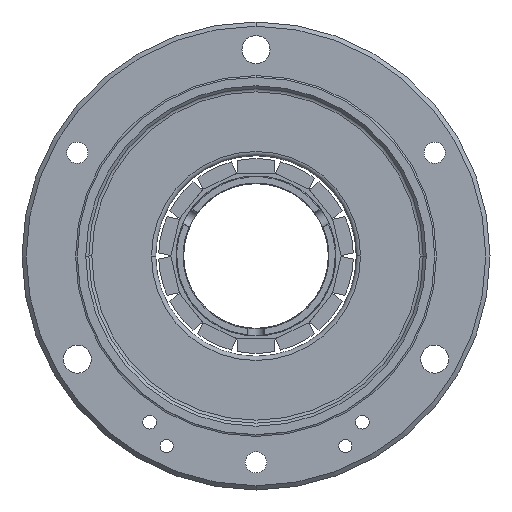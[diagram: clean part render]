
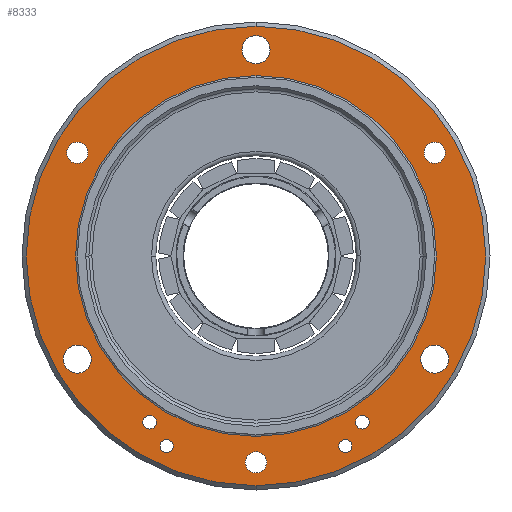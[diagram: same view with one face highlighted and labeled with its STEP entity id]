
A CAD part, left-side view. The second image highlights one B-rep face of the part: STEP entity #8333.
In plain terms, the highlighted planar face has unit normal (-1, 0, 0) as drawn and (0, 1, 0) by its records, which use the part's own axes.
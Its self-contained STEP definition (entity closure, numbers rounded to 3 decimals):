
#1492=CARTESIAN_POINT('',(-24.25,4.,0.));
#1493=DIRECTION('',(0.,-1.,0.));
#1494=DIRECTION('',(-1.,0.,0.));
#1495=AXIS2_PLACEMENT_3D('',#1492,#1493,#1494);
#1500=CARTESIAN_POINT('',(-24.25,4.,0.));
#1501=DIRECTION('',(0.,-1.,0.));
#1502=DIRECTION('',(1.,0.,0.));
#1503=AXIS2_PLACEMENT_3D('',#1500,#1501,#1502);
#1508=CARTESIAN_POINT('',(12.125,4.,21.001));
#1509=DIRECTION('',(0.,-1.,0.));
#1510=DIRECTION('',(0.5,0.,0.866));
#1511=AXIS2_PLACEMENT_3D('',#1508,#1509,#1510);
#1516=CARTESIAN_POINT('',(12.125,4.,21.001));
#1517=DIRECTION('',(0.,-1.,0.));
#1518=DIRECTION('',(-0.5,0.,-0.866));
#1519=AXIS2_PLACEMENT_3D('',#1516,#1517,#1518);
#1524=CARTESIAN_POINT('',(12.125,4.,-21.001));
#1525=DIRECTION('',(0.,-1.,0.));
#1526=DIRECTION('',(0.5,0.,-0.866));
#1527=AXIS2_PLACEMENT_3D('',#1524,#1525,#1526);
#1532=CARTESIAN_POINT('',(12.125,4.,-21.001));
#1533=DIRECTION('',(0.,-1.,0.));
#1534=DIRECTION('',(-0.5,0.,0.866));
#1535=AXIS2_PLACEMENT_3D('',#1532,#1533,#1534);
#1540=CARTESIAN_POINT('',(-12.125,4.,21.001));
#1541=DIRECTION('',(0.,1.,0.));
#1542=DIRECTION('',(-1.,0.,0.));
#1543=AXIS2_PLACEMENT_3D('',#1540,#1541,#1542);
#1548=CARTESIAN_POINT('',(-12.125,4.,21.001));
#1549=DIRECTION('',(0.,1.,0.));
#1550=DIRECTION('',(1.,0.,0.));
#1551=AXIS2_PLACEMENT_3D('',#1548,#1549,#1550);
#1556=CARTESIAN_POINT('',(24.25,4.,0.));
#1557=DIRECTION('',(0.,1.,0.));
#1558=DIRECTION('',(0.5,0.,0.866));
#1559=AXIS2_PLACEMENT_3D('',#1556,#1557,#1558);
#1564=CARTESIAN_POINT('',(24.25,4.,0.));
#1565=DIRECTION('',(0.,1.,0.));
#1566=DIRECTION('',(-0.5,0.,-0.866));
#1567=AXIS2_PLACEMENT_3D('',#1564,#1565,#1566);
#1572=CARTESIAN_POINT('',(-12.125,4.,-21.001));
#1573=DIRECTION('',(0.,1.,0.));
#1574=DIRECTION('',(0.5,0.,-0.866));
#1575=AXIS2_PLACEMENT_3D('',#1572,#1573,#1574);
#1580=CARTESIAN_POINT('',(-12.125,4.,-21.001));
#1581=DIRECTION('',(0.,1.,0.));
#1582=DIRECTION('',(-0.5,0.,0.866));
#1583=AXIS2_PLACEMENT_3D('',#1580,#1581,#1582);
#1588=CARTESIAN_POINT('',(0.,4.,0.));
#1589=DIRECTION('',(0.,-1.,0.));
#1590=DIRECTION('',(1.,0.,0.));
#1591=AXIS2_PLACEMENT_3D('',#1588,#1589,#1590);
#1596=CARTESIAN_POINT('',(0.,4.,0.));
#1597=DIRECTION('',(0.,-1.,0.));
#1598=DIRECTION('',(-1.,0.,0.));
#1599=AXIS2_PLACEMENT_3D('',#1596,#1597,#1598);
#1604=CARTESIAN_POINT('',(-22.34,4.,-10.5));
#1605=DIRECTION('',(0.,-1.,0.));
#1606=DIRECTION('',(-1.,0.,0.));
#1607=AXIS2_PLACEMENT_3D('',#1604,#1605,#1606);
#1612=CARTESIAN_POINT('',(-22.34,4.,-10.5));
#1613=DIRECTION('',(0.,-1.,0.));
#1614=DIRECTION('',(1.,0.,0.));
#1615=AXIS2_PLACEMENT_3D('',#1612,#1613,#1614);
#1620=CARTESIAN_POINT('',(-22.34,4.,10.5));
#1621=DIRECTION('',(0.,1.,0.));
#1622=DIRECTION('',(-1.,0.,0.));
#1623=AXIS2_PLACEMENT_3D('',#1620,#1621,#1622);
#1628=CARTESIAN_POINT('',(-22.34,4.,10.5));
#1629=DIRECTION('',(0.,1.,0.));
#1630=DIRECTION('',(1.,0.,0.));
#1631=AXIS2_PLACEMENT_3D('',#1628,#1629,#1630);
#1636=CARTESIAN_POINT('',(-19.54,4.,-12.5));
#1637=DIRECTION('',(0.,-1.,0.));
#1638=DIRECTION('',(-1.,0.,0.));
#1639=AXIS2_PLACEMENT_3D('',#1636,#1637,#1638);
#1644=CARTESIAN_POINT('',(-19.54,4.,-12.5));
#1645=DIRECTION('',(0.,-1.,0.));
#1646=DIRECTION('',(1.,0.,0.));
#1647=AXIS2_PLACEMENT_3D('',#1644,#1645,#1646);
#1652=CARTESIAN_POINT('',(-19.54,4.,12.5));
#1653=DIRECTION('',(0.,-1.,0.));
#1654=DIRECTION('',(-1.,0.,0.));
#1655=AXIS2_PLACEMENT_3D('',#1652,#1653,#1654);
#1660=CARTESIAN_POINT('',(-19.54,4.,12.5));
#1661=DIRECTION('',(0.,-1.,0.));
#1662=DIRECTION('',(1.,0.,0.));
#1663=AXIS2_PLACEMENT_3D('',#1660,#1661,#1662);
#1668=CARTESIAN_POINT('',(0.,4.,0.));
#1669=DIRECTION('',(0.,1.,0.));
#1670=DIRECTION('',(-1.,0.,0.));
#1671=AXIS2_PLACEMENT_3D('',#1668,#1669,#1670);
#1676=CARTESIAN_POINT('',(0.,4.,0.));
#1677=DIRECTION('',(0.,1.,0.));
#1678=DIRECTION('',(1.,0.,0.));
#1679=AXIS2_PLACEMENT_3D('',#1676,#1677,#1678);
#1926=CARTESIAN_POINT('',(-25.5,4.,0.));
#1927=CARTESIAN_POINT('',(-23.,4.,0.));
#1928=VERTEX_POINT('',#1926);
#1929=VERTEX_POINT('',#1927);
#1930=CARTESIAN_POINT('',(12.75,4.,22.084));
#1932=VERTEX_POINT('',#1930);
#1934=CARTESIAN_POINT('',(11.5,4.,19.919));
#1936=VERTEX_POINT('',#1934);
#1938=CARTESIAN_POINT('',(12.75,4.,-22.084));
#1940=VERTEX_POINT('',#1938);
#1942=CARTESIAN_POINT('',(11.5,4.,-19.919));
#1944=VERTEX_POINT('',#1942);
#1950=CARTESIAN_POINT('',(-13.775,4.,21.001));
#1951=CARTESIAN_POINT('',(-10.475,4.,21.001));
#1952=VERTEX_POINT('',#1950);
#1953=VERTEX_POINT('',#1951);
#1982=CARTESIAN_POINT('',(27.,4.,0.));
#1983=CARTESIAN_POINT('',(-27.,4.,0.));
#1984=VERTEX_POINT('',#1982);
#1985=VERTEX_POINT('',#1983);
#2004=CARTESIAN_POINT('',(-23.115,4.,-10.5));
#2005=VERTEX_POINT('',#2004);
#2006=CARTESIAN_POINT('',(-21.565,4.,-10.5));
#2007=VERTEX_POINT('',#2006);
#2012=CARTESIAN_POINT('',(-23.115,4.,10.5));
#2013=VERTEX_POINT('',#2012);
#2014=CARTESIAN_POINT('',(-21.565,4.,10.5));
#2015=VERTEX_POINT('',#2014);
#2020=CARTESIAN_POINT('',(-20.34,4.,-12.5));
#2021=CARTESIAN_POINT('',(-18.74,4.,-12.5));
#2022=VERTEX_POINT('',#2020);
#2023=VERTEX_POINT('',#2021);
#2028=CARTESIAN_POINT('',(-20.34,4.,12.5));
#2029=CARTESIAN_POINT('',(-18.74,4.,12.5));
#2030=VERTEX_POINT('',#2028);
#2031=VERTEX_POINT('',#2029);
#2073=CARTESIAN_POINT('',(25.075,4.,1.429));
#2074=CARTESIAN_POINT('',(23.425,4.,-1.429));
#2075=VERTEX_POINT('',#2073);
#2076=VERTEX_POINT('',#2074);
#2081=CARTESIAN_POINT('',(-11.3,4.,-22.43));
#2082=CARTESIAN_POINT('',(-12.95,4.,-19.572));
#2083=VERTEX_POINT('',#2081);
#2084=VERTEX_POINT('',#2082);
#2085=CARTESIAN_POINT('',(-21.2,4.,0.));
#2086=CARTESIAN_POINT('',(21.2,4.,0.));
#2087=VERTEX_POINT('',#2085);
#2088=VERTEX_POINT('',#2086);
#8257=CARTESIAN_POINT('',(0.,4.,0.));
#8258=DIRECTION('',(0.,-1.,0.));
#8259=DIRECTION('',(-1.,0.,0.));
#8260=AXIS2_PLACEMENT_3D('',#8257,#8258,#8259);
#8261=PLANE('',#8260);
#8263=ORIENTED_EDGE('',*,*,#8262,.T.);
#8265=ORIENTED_EDGE('',*,*,#8264,.T.);
#8266=EDGE_LOOP('',(#8263,#8265));
#8267=FACE_OUTER_BOUND('',#8266,.F.);
#8269=ORIENTED_EDGE('',*,*,#8268,.F.);
#8271=ORIENTED_EDGE('',*,*,#8270,.F.);
#8272=EDGE_LOOP('',(#8269,#8271));
#8273=FACE_BOUND('',#8272,.F.);
#8275=ORIENTED_EDGE('',*,*,#8274,.F.);
#8277=ORIENTED_EDGE('',*,*,#8276,.F.);
#8278=EDGE_LOOP('',(#8275,#8277));
#8279=FACE_BOUND('',#8278,.F.);
#8281=ORIENTED_EDGE('',*,*,#8280,.T.);
#8283=ORIENTED_EDGE('',*,*,#8282,.T.);
#8284=EDGE_LOOP('',(#8281,#8283));
#8285=FACE_BOUND('',#8284,.F.);
#8287=ORIENTED_EDGE('',*,*,#8286,.T.);
#8289=ORIENTED_EDGE('',*,*,#8288,.T.);
#8290=EDGE_LOOP('',(#8287,#8289));
#8291=FACE_BOUND('',#8290,.F.);
#8293=ORIENTED_EDGE('',*,*,#8292,.T.);
#8295=ORIENTED_EDGE('',*,*,#8294,.T.);
#8296=EDGE_LOOP('',(#8293,#8295));
#8297=FACE_BOUND('',#8296,.F.);
#8299=ORIENTED_EDGE('',*,*,#8298,.F.);
#8301=ORIENTED_EDGE('',*,*,#8300,.F.);
#8302=EDGE_LOOP('',(#8299,#8301));
#8303=FACE_BOUND('',#8302,.F.);
#8305=ORIENTED_EDGE('',*,*,#8304,.F.);
#8307=ORIENTED_EDGE('',*,*,#8306,.F.);
#8308=EDGE_LOOP('',(#8305,#8307));
#8309=FACE_BOUND('',#8308,.F.);
#8311=ORIENTED_EDGE('',*,*,#8310,.T.);
#8313=ORIENTED_EDGE('',*,*,#8312,.T.);
#8314=EDGE_LOOP('',(#8311,#8313));
#8315=FACE_BOUND('',#8314,.F.);
#8317=ORIENTED_EDGE('',*,*,#8316,.F.);
#8319=ORIENTED_EDGE('',*,*,#8318,.F.);
#8320=EDGE_LOOP('',(#8317,#8319));
#8321=FACE_BOUND('',#8320,.F.);
#8323=ORIENTED_EDGE('',*,*,#8322,.F.);
#8325=ORIENTED_EDGE('',*,*,#8324,.F.);
#8326=EDGE_LOOP('',(#8323,#8325));
#8327=FACE_BOUND('',#8326,.F.);
#8328=ORIENTED_EDGE('',*,*,#8247,.T.);
#8330=ORIENTED_EDGE('',*,*,#8329,.T.);
#8331=EDGE_LOOP('',(#8328,#8330));
#8332=FACE_BOUND('',#8331,.F.);
#8333=ADVANCED_FACE('',(#8267,#8273,#8279,#8285,#8291,#8297,#8303,#8309,#8315,
#8321,#8327,#8332),#8261,.F.);
#1496=CIRCLE('',#1495,1.25);
#1504=CIRCLE('',#1503,1.25);
#1512=CIRCLE('',#1511,1.25);
#1520=CIRCLE('',#1519,1.25);
#1528=CIRCLE('',#1527,1.25);
#1536=CIRCLE('',#1535,1.25);
#1544=CIRCLE('',#1543,1.65);
#1552=CIRCLE('',#1551,1.65);
#1560=CIRCLE('',#1559,1.65);
#1568=CIRCLE('',#1567,1.65);
#1576=CIRCLE('',#1575,1.65);
#1584=CIRCLE('',#1583,1.65);
#1592=CIRCLE('',#1591,27.);
#1600=CIRCLE('',#1599,27.);
#1608=CIRCLE('',#1607,0.775);
#1616=CIRCLE('',#1615,0.775);
#1624=CIRCLE('',#1623,0.775);
#1632=CIRCLE('',#1631,0.775);
#1640=CIRCLE('',#1639,0.8);
#1648=CIRCLE('',#1647,0.8);
#1656=CIRCLE('',#1655,0.8);
#1664=CIRCLE('',#1663,0.8);
#1672=CIRCLE('',#1671,21.2);
#1680=CIRCLE('',#1679,21.2);
#8247=EDGE_CURVE('',#2087,#2088,#1672,.T.);
#8262=EDGE_CURVE('',#1984,#1985,#1592,.T.);
#8264=EDGE_CURVE('',#1985,#1984,#1600,.T.);
#8268=EDGE_CURVE('',#1932,#1936,#1512,.T.);
#8270=EDGE_CURVE('',#1936,#1932,#1520,.T.);
#8274=EDGE_CURVE('',#1940,#1944,#1528,.T.);
#8276=EDGE_CURVE('',#1944,#1940,#1536,.T.);
#8280=EDGE_CURVE('',#1952,#1953,#1544,.T.);
#8282=EDGE_CURVE('',#1953,#1952,#1552,.T.);
#8286=EDGE_CURVE('',#2075,#2076,#1560,.T.);
#8288=EDGE_CURVE('',#2076,#2075,#1568,.T.);
#8292=EDGE_CURVE('',#2083,#2084,#1576,.T.);
#8294=EDGE_CURVE('',#2084,#2083,#1584,.T.);
#8298=EDGE_CURVE('',#1928,#1929,#1496,.T.);
#8300=EDGE_CURVE('',#1929,#1928,#1504,.T.);
#8304=EDGE_CURVE('',#2005,#2007,#1608,.T.);
#8306=EDGE_CURVE('',#2007,#2005,#1616,.T.);
#8310=EDGE_CURVE('',#2013,#2015,#1624,.T.);
#8312=EDGE_CURVE('',#2015,#2013,#1632,.T.);
#8316=EDGE_CURVE('',#2022,#2023,#1640,.T.);
#8318=EDGE_CURVE('',#2023,#2022,#1648,.T.);
#8322=EDGE_CURVE('',#2030,#2031,#1656,.T.);
#8324=EDGE_CURVE('',#2031,#2030,#1664,.T.);
#8329=EDGE_CURVE('',#2088,#2087,#1680,.T.);
